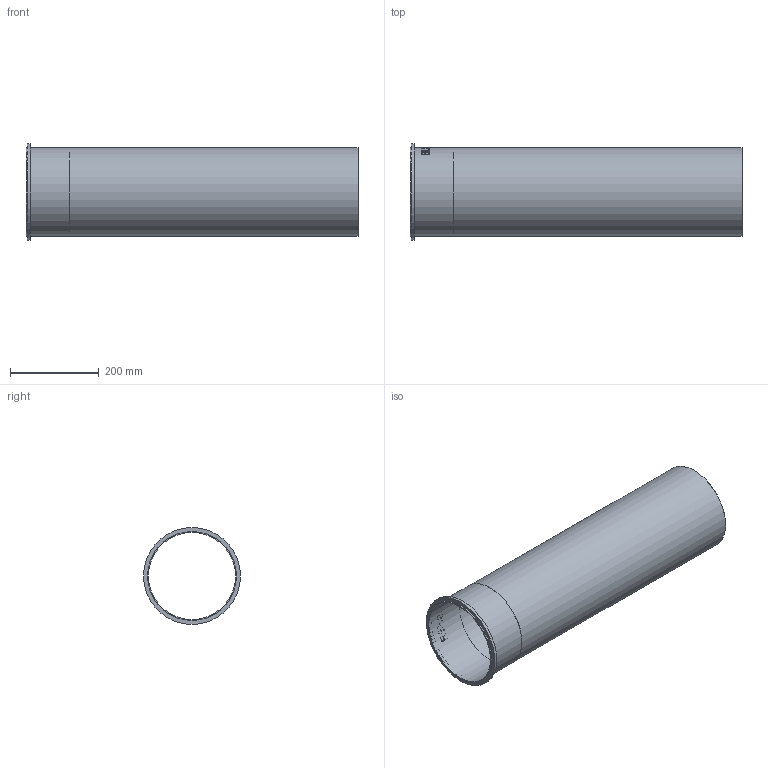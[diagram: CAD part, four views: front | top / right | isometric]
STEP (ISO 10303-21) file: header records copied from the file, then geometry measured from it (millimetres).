
FILE_DESCRIPTION((''),'2;1');
FILE_NAME('I:\WATTS\3D_CAD\3D_CAD_Models\Blucher_Drains\P_StraightPipe\WebsiteFiles\3D\STEP\P8-2.5-316.stp','2009-12-03T09:00:28',('menesek'),(''),'Autodesk Inventor 2010','Autodesk Inventor 2010','');
FILE_SCHEMA(('AUTOMOTIVE_DESIGN { 1 0 10303 214 1 1 1 1 }'));
Length unit declared in the file: inch
Products named in the file (1): P8-2.5-316
Bounding box: 750 x 218.95 x 218.95 mm (x, y, z)
Volume: 781420.5 mm3; surface area: 950090.4 mm2
Topology: 1 solids, 1 shells, 109 faces, 285 edges, 190 vertices
Faces by surface type: plane 59, bspline 34, cylinder 16
Full cylindrical faces by diameter (mm): 196.85 x1, 199.898 x1, 200.914 x2, 218.948 x1
Entity records: 14215 total; most frequent: CARTESIAN_POINT 11837, ORIENTED_EDGE 548, DIRECTION 356, EDGE_CURVE 274, VERTEX_POINT 186, EDGE_LOOP 128, AXIS2_PLACEMENT_3D 120, VECTOR 116
